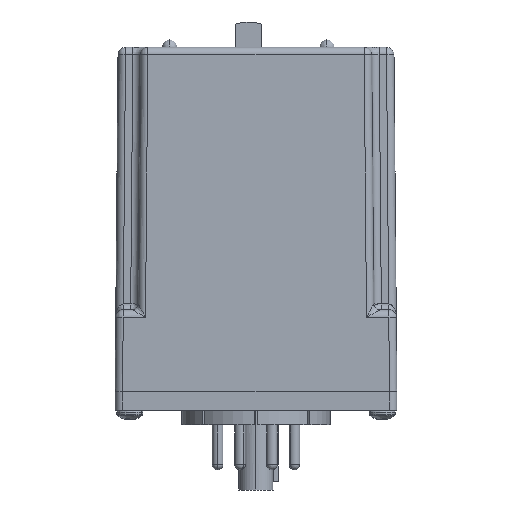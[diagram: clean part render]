
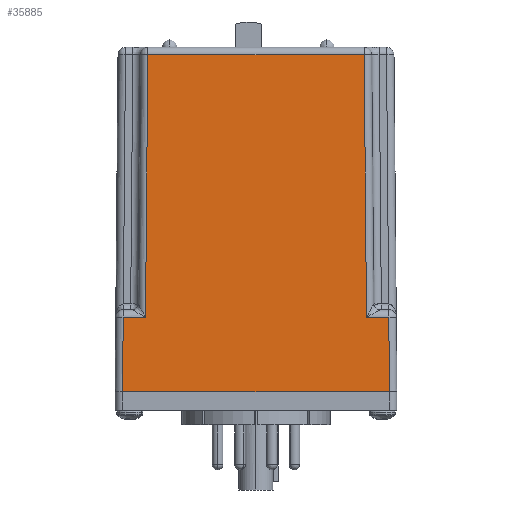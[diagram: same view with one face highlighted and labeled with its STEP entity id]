
A CAD part, left-side view. The second image highlights one B-rep face of the part: STEP entity #35885.
In plain terms, the highlighted planar face has unit normal (-1, 0, 0.009).
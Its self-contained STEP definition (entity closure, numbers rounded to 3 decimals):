
#351 = EDGE_CURVE ( 'NONE', #7313, #23391, #11917, .T. ) ;
#1217 = CARTESIAN_POINT ( 'NONE',  ( -22.086, -23.635, 15.889 ) ) ;
#1590 = LINE ( 'NONE', #21885, #13794 ) ;
#1853 = VECTOR ( 'NONE', #5381, 1000. ) ;
#2083 = CARTESIAN_POINT ( 'NONE',  ( -22.225, -30.163, 0. ) ) ;
#3228 = DIRECTION ( 'NONE',  ( 0.009, 0.009, 1. ) ) ;
#3920 = CARTESIAN_POINT ( 'NONE',  ( -21.596, 23.158, 72.074 ) ) ;
#4203 = ORIENTED_EDGE ( 'NONE', *, *, #15173, .T. ) ;
#5113 = EDGE_CURVE ( 'NONE', #23510, #7313, #15336, .T. ) ;
#5381 = DIRECTION ( 'NONE',  ( 0., -1., 0. ) ) ;
#5408 = VECTOR ( 'NONE', #3228, 1000. ) ;
#5599 = CARTESIAN_POINT ( 'NONE',  ( -22.225, -28.562, -0.014 ) ) ;
#6147 = LINE ( 'NONE', #25898, #6239 ) ;
#6163 = EDGE_CURVE ( 'NONE', #23391, #21603, #6147, .T. ) ;
#6238 = EDGE_CURVE ( 'NONE', #21603, #33310, #1590, .T. ) ;
#6239 = VECTOR ( 'NONE', #17219, 1000. ) ;
#6622 = VECTOR ( 'NONE', #12306, 1000. ) ;
#7299 = VERTEX_POINT ( 'NONE', #24594 ) ;
#7313 = VERTEX_POINT ( 'NONE', #3920 ) ;
#7382 = VERTEX_POINT ( 'NONE', #11569 ) ;
#8881 = CARTESIAN_POINT ( 'NONE',  ( -22.225, -23.788, -0.056 ) ) ;
#9064 = CARTESIAN_POINT ( 'NONE',  ( -21.596, 23.144, 72.074 ) ) ;
#9933 = ORIENTED_EDGE ( 'NONE', *, *, #351, .T. ) ;
#10056 = CARTESIAN_POINT ( 'NONE',  ( -22.086, 28.424, 15.889 ) ) ;
#10857 = CARTESIAN_POINT ( 'NONE',  ( -22.225, -30.163, 0. ) ) ;
#11569 = CARTESIAN_POINT ( 'NONE',  ( -22.086, -28.424, 15.889 ) ) ;
#11917 = LINE ( 'NONE', #32192, #34790 ) ;
#12005 = EDGE_CURVE ( 'NONE', #33310, #7299, #19169, .T. ) ;
#12306 = DIRECTION ( 'NONE',  ( 0., 1., 0. ) ) ;
#13178 = PLANE ( 'NONE',  #15558 ) ;
#13362 = EDGE_CURVE ( 'NONE', #15063, #23510, #28061, .T. ) ;
#13616 = ORIENTED_EDGE ( 'NONE', *, *, #12005, .T. ) ;
#13794 = VECTOR ( 'NONE', #30046, 1000. ) ;
#14417 = ORIENTED_EDGE ( 'NONE', *, *, #5113, .T. ) ;
#15063 = VERTEX_POINT ( 'NONE', #20287 ) ;
#15173 = EDGE_CURVE ( 'NONE', #7382, #15063, #26078, .T. ) ;
#15336 = LINE ( 'NONE', #9064, #24722 ) ;
#15558 = AXIS2_PLACEMENT_3D ( 'NONE', #2083, #33265, #18781 ) ;
#16119 = VECTOR ( 'NONE', #18862, 1000. ) ;
#16153 = LINE ( 'NONE', #5599, #16119 ) ;
#17219 = DIRECTION ( 'NONE',  ( 0., 1., 0. ) ) ;
#18781 = DIRECTION ( 'NONE',  ( 0.009, 0., 1. ) ) ;
#18862 = DIRECTION ( 'NONE',  ( 0.009, 0.009, 1. ) ) ;
#19169 = LINE ( 'NONE', #10857, #1853 ) ;
#20287 = CARTESIAN_POINT ( 'NONE',  ( -22.086, -23.649, 15.889 ) ) ;
#21603 = VERTEX_POINT ( 'NONE', #10056 ) ;
#21885 = CARTESIAN_POINT ( 'NONE',  ( -22.221, 28.558, 0.512 ) ) ;
#22019 = ORIENTED_EDGE ( 'NONE', *, *, #6238, .T. ) ;
#22169 = CARTESIAN_POINT ( 'NONE',  ( -21.596, -23.158, 72.074 ) ) ;
#22345 = ORIENTED_EDGE ( 'NONE', *, *, #29773, .T. ) ;
#23391 = VERTEX_POINT ( 'NONE', #24358 ) ;
#23510 = VERTEX_POINT ( 'NONE', #22169 ) ;
#24358 = CARTESIAN_POINT ( 'NONE',  ( -22.086, 23.649, 15.889 ) ) ;
#24594 = CARTESIAN_POINT ( 'NONE',  ( -22.225, -28.562, 0. ) ) ;
#24620 = CARTESIAN_POINT ( 'NONE',  ( -22.225, 28.562, 0. ) ) ;
#24722 = VECTOR ( 'NONE', #33516, 1000. ) ;
#25898 = CARTESIAN_POINT ( 'NONE',  ( -22.086, 28.41, 15.889 ) ) ;
#26078 = LINE ( 'NONE', #1217, #6622 ) ;
#26577 = DIRECTION ( 'NONE',  ( -0.009, 0.009, -1. ) ) ;
#28061 = LINE ( 'NONE', #8881, #5408 ) ;
#28301 = EDGE_LOOP ( 'NONE', ( #9933, #35507, #22019, #13616, #22345, #4203, #30574, #14417 ) ) ;
#29773 = EDGE_CURVE ( 'NONE', #7299, #7382, #16153, .T. ) ;
#30046 = DIRECTION ( 'NONE',  ( -0.009, 0.009, -1. ) ) ;
#30574 = ORIENTED_EDGE ( 'NONE', *, *, #13362, .T. ) ;
#32192 = CARTESIAN_POINT ( 'NONE',  ( -22.221, 23.783, 0.471 ) ) ;
#33088 = FACE_OUTER_BOUND ( 'NONE', #28301, .T. ) ;
#33265 = DIRECTION ( 'NONE',  ( -1., 0., 0.009 ) ) ;
#33310 = VERTEX_POINT ( 'NONE', #24620 ) ;
#33516 = DIRECTION ( 'NONE',  ( 0., 1., 0. ) ) ;
#34790 = VECTOR ( 'NONE', #26577, 1000. ) ;
#35507 = ORIENTED_EDGE ( 'NONE', *, *, #6163, .T. ) ;
#35885 = ADVANCED_FACE ( 'NONE', ( #33088 ), #13178, .T. ) ;
